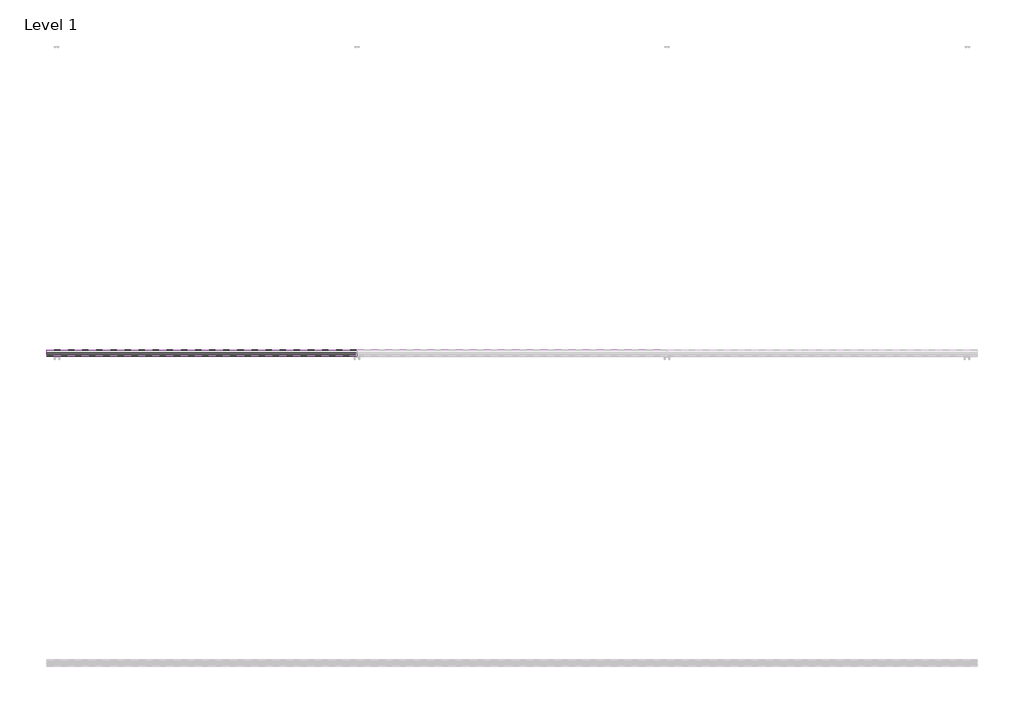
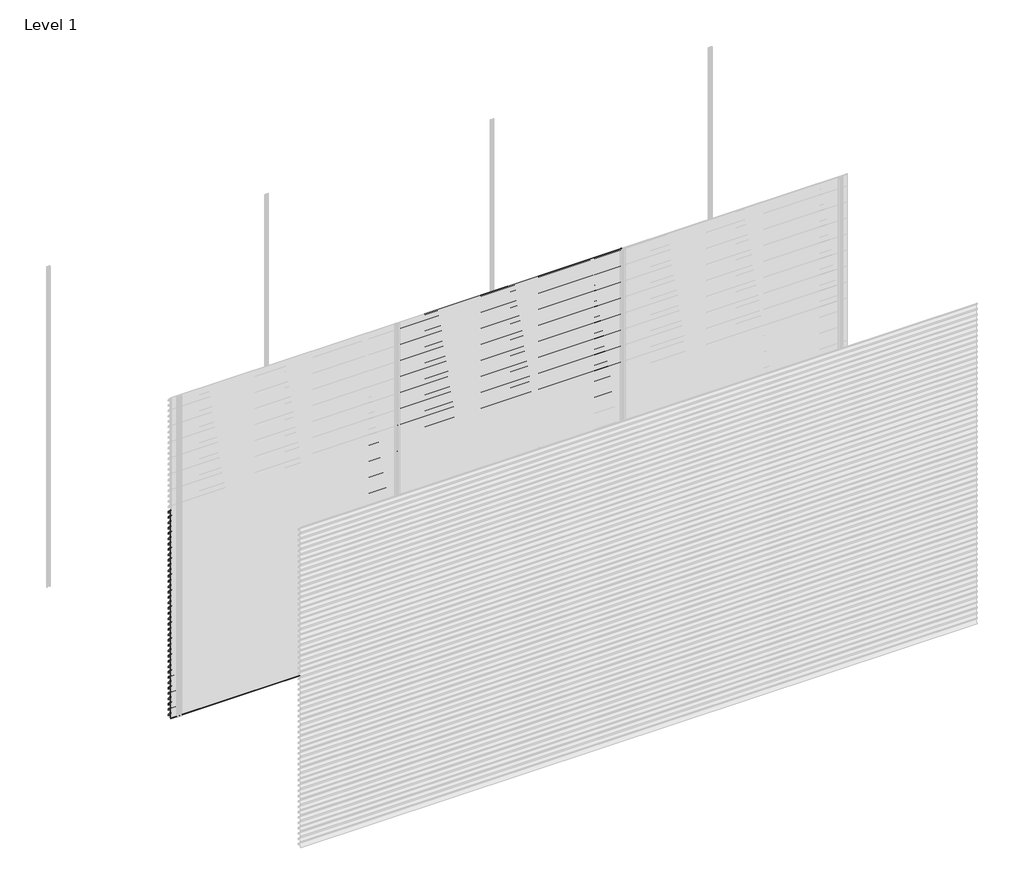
# One storey, part 33 of 38: 66 proxies.
"""IFC4 building model written with IfcOpenShell, lengths in millimetres."""

from ifc_helpers import new_model, si_unit, frame, origin, place, context, project, spatial, polyline, outline, extrude, element, save

model = new_model("IFC4")

# Units and contexts
model_context = context("Model", 3, world=origin())
ifc_project = project(units=[si_unit("LENGTHUNIT", "METRE", prefix="MILLI")], contexts=[model_context])

# Site, building, storey
site = spatial("IfcSite", under=ifc_project)
building = spatial("IfcBuilding", under=site)
storey = spatial("IfcBuildingStorey", under=building, Name="Level 1", Elevation=0.0)

# Proxies
placement = place(None, origin())
element("IfcBuildingElementProxy", 1, Name="Wall Sweeps", at=placement, inside=storey, context=model_context, shape_type="SweptSolid", body=[
    extrude(outline(polyline([(-5996.75, 1950.0), (-5996.75, 1939.19656), (-5974.6057113, 1926.4115489), (-5957.0, 1909.0472005), (-5957.0, 1894.0472005), (-5958.3, 1895.0268207), (-5958.3, 1908.5034593), (-5969.4914725, 1919.541504), (-5994.2797376, 1890.0), (-5995.9767671, 1890.0), (-5970.4200307, 1920.4573323), (-5975.3999793, 1925.3690091), (-5998.0, 1938.4171371), (-5998.0, 1950.0), (-5996.75, 1950.0)])), frame((0.0, 0.0, 0.0), z_axis=(1.0, 0.0, 0.0), x_axis=(0.0, 1.0, 0.0)), (0.0, 0.0, 1.0), 2000.0),
])
element("IfcBuildingElementProxy", 2, Name="Wall Sweeps", at=placement, inside=storey, context=model_context, shape_type="SweptSolid", body=[
    extrude(outline(polyline([(-5996.75, 1900.0), (-5996.75, 1889.19656), (-5974.6057113, 1876.4115489), (-5957.0, 1859.0472005), (-5957.0, 1844.0472005), (-5958.3, 1845.0268207), (-5958.3, 1858.5034593), (-5969.4914725, 1869.541504), (-5994.2797376, 1840.0), (-5995.9767671, 1840.0), (-5970.4200307, 1870.4573323), (-5975.3999793, 1875.3690091), (-5998.0, 1888.4171371), (-5998.0, 1900.0), (-5996.75, 1900.0)])), frame((0.0, 0.0, 0.0), z_axis=(1.0, 0.0, 0.0), x_axis=(0.0, 1.0, 0.0)), (0.0, 0.0, 1.0), 2000.0),
])
element("IfcBuildingElementProxy", 3, Name="Wall Sweeps", at=placement, inside=storey, context=model_context, shape_type="SweptSolid", body=[
    extrude(outline(polyline([(-5996.75, 1850.0), (-5996.75, 1839.19656), (-5974.6057113, 1826.4115489), (-5957.0, 1809.0472005), (-5957.0, 1794.0472005), (-5958.3, 1795.0268207), (-5958.3, 1808.5034593), (-5969.4914725, 1819.541504), (-5994.2797376, 1790.0), (-5995.9767671, 1790.0), (-5970.4200307, 1820.4573323), (-5975.3999793, 1825.3690091), (-5998.0, 1838.4171371), (-5998.0, 1850.0), (-5996.75, 1850.0)])), frame((0.0, 0.0, 0.0), z_axis=(1.0, 0.0, 0.0), x_axis=(0.0, 1.0, 0.0)), (0.0, 0.0, 1.0), 2000.0),
])
element("IfcBuildingElementProxy", 4, Name="Wall Sweeps", at=placement, inside=storey, context=model_context, shape_type="SweptSolid", body=[
    extrude(outline(polyline([(-5996.75, 1800.0), (-5996.75, 1789.19656), (-5974.6057113, 1776.4115489), (-5957.0, 1759.0472005), (-5957.0, 1744.0472005), (-5958.3, 1745.0268207), (-5958.3, 1758.5034593), (-5969.4914725, 1769.541504), (-5994.2797376, 1740.0), (-5995.9767671, 1740.0), (-5970.4200307, 1770.4573323), (-5975.3999793, 1775.3690091), (-5998.0, 1788.4171371), (-5998.0, 1800.0), (-5996.75, 1800.0)])), frame((0.0, 0.0, 0.0), z_axis=(1.0, 0.0, 0.0), x_axis=(0.0, 1.0, 0.0)), (0.0, 0.0, 1.0), 2000.0),
])
element("IfcBuildingElementProxy", 5, Name="Wall Sweeps", at=placement, inside=storey, context=model_context, shape_type="SweptSolid", body=[
    extrude(outline(polyline([(-5996.75, 1750.0), (-5996.75, 1739.19656), (-5974.6057113, 1726.4115489), (-5957.0, 1709.0472005), (-5957.0, 1694.0472005), (-5958.3, 1695.0268207), (-5958.3, 1708.5034593), (-5969.4914725, 1719.541504), (-5994.2797376, 1690.0), (-5995.9767671, 1690.0), (-5970.4200307, 1720.4573323), (-5975.3999793, 1725.3690091), (-5998.0, 1738.4171371), (-5998.0, 1750.0), (-5996.75, 1750.0)])), frame((0.0, 0.0, 0.0), z_axis=(1.0, 0.0, 0.0), x_axis=(0.0, 1.0, 0.0)), (0.0, 0.0, 1.0), 2000.0),
])
element("IfcBuildingElementProxy", 6, Name="Wall Sweeps", at=placement, inside=storey, context=model_context, shape_type="SweptSolid", body=[
    extrude(outline(polyline([(-5996.75, 1700.0), (-5996.75, 1689.19656), (-5974.6057113, 1676.4115489), (-5957.0, 1659.0472005), (-5957.0, 1644.0472005), (-5958.3, 1645.0268207), (-5958.3, 1658.5034593), (-5969.4914725, 1669.541504), (-5994.2797376, 1640.0), (-5995.9767671, 1640.0), (-5970.4200307, 1670.4573323), (-5975.3999793, 1675.3690091), (-5998.0, 1688.4171371), (-5998.0, 1700.0), (-5996.75, 1700.0)])), frame((0.0, 0.0, 0.0), z_axis=(1.0, 0.0, 0.0), x_axis=(0.0, 1.0, 0.0)), (0.0, 0.0, 1.0), 2000.0),
])
element("IfcBuildingElementProxy", 7, Name="Wall Sweeps", at=placement, inside=storey, context=model_context, shape_type="SweptSolid", body=[
    extrude(outline(polyline([(-5996.75, 1650.0), (-5996.75, 1639.19656), (-5974.6057113, 1626.4115489), (-5957.0, 1609.0472005), (-5957.0, 1594.0472005), (-5958.3, 1595.0268207), (-5958.3, 1608.5034593), (-5969.4914725, 1619.541504), (-5994.2797376, 1590.0), (-5995.9767671, 1590.0), (-5970.4200307, 1620.4573323), (-5975.3999793, 1625.3690091), (-5998.0, 1638.4171371), (-5998.0, 1650.0), (-5996.75, 1650.0)])), frame((0.0, 0.0, 0.0), z_axis=(1.0, 0.0, 0.0), x_axis=(0.0, 1.0, 0.0)), (0.0, 0.0, 1.0), 2000.0),
])
element("IfcBuildingElementProxy", 8, Name="Wall Sweeps", at=placement, inside=storey, context=model_context, shape_type="SweptSolid", body=[
    extrude(outline(polyline([(-5996.75, 1600.0), (-5996.75, 1589.19656), (-5974.6057113, 1576.4115489), (-5957.0, 1559.0472005), (-5957.0, 1544.0472005), (-5958.3, 1545.0268207), (-5958.3, 1558.5034593), (-5969.4914725, 1569.541504), (-5994.2797376, 1540.0), (-5995.9767671, 1540.0), (-5970.4200307, 1570.4573323), (-5975.3999793, 1575.3690091), (-5998.0, 1588.4171371), (-5998.0, 1600.0), (-5996.75, 1600.0)])), frame((0.0, 0.0, 0.0), z_axis=(1.0, 0.0, 0.0), x_axis=(0.0, 1.0, 0.0)), (0.0, 0.0, 1.0), 2000.0),
])
element("IfcBuildingElementProxy", 9, Name="Wall Sweeps", at=placement, inside=storey, context=model_context, shape_type="SweptSolid", body=[
    extrude(outline(polyline([(-5996.75, 1550.0), (-5996.75, 1539.19656), (-5974.6057113, 1526.4115489), (-5957.0, 1509.0472005), (-5957.0, 1494.0472005), (-5958.3, 1495.0268207), (-5958.3, 1508.5034593), (-5969.4914725, 1519.541504), (-5994.2797376, 1490.0), (-5995.9767671, 1490.0), (-5970.4200307, 1520.4573323), (-5975.3999793, 1525.3690091), (-5998.0, 1538.4171371), (-5998.0, 1550.0), (-5996.75, 1550.0)])), frame((0.0, 0.0, 0.0), z_axis=(1.0, 0.0, 0.0), x_axis=(0.0, 1.0, 0.0)), (0.0, 0.0, 1.0), 2000.0),
])
element("IfcBuildingElementProxy", 10, Name="Wall Sweeps", at=placement, inside=storey, context=model_context, shape_type="SweptSolid", body=[
    extrude(outline(polyline([(-5996.75, 1500.0), (-5996.75, 1489.19656), (-5974.6057113, 1476.4115489), (-5957.0, 1459.0472005), (-5957.0, 1444.0472005), (-5958.3, 1445.0268207), (-5958.3, 1458.5034593), (-5969.4914725, 1469.541504), (-5994.2797376, 1440.0), (-5995.9767671, 1440.0), (-5970.4200307, 1470.4573323), (-5975.3999793, 1475.3690091), (-5998.0, 1488.4171371), (-5998.0, 1500.0), (-5996.75, 1500.0)])), frame((0.0, 0.0, 0.0), z_axis=(1.0, 0.0, 0.0), x_axis=(0.0, 1.0, 0.0)), (0.0, 0.0, 1.0), 2000.0),
])
element("IfcBuildingElementProxy", 11, Name="Wall Sweeps", at=placement, inside=storey, context=model_context, shape_type="SweptSolid", body=[
    extrude(outline(polyline([(-5996.75, 1450.0), (-5996.75, 1439.19656), (-5974.6057113, 1426.4115489), (-5957.0, 1409.0472005), (-5957.0, 1394.0472005), (-5958.3, 1395.0268207), (-5958.3, 1408.5034593), (-5969.4914725, 1419.541504), (-5994.2797376, 1390.0), (-5995.9767671, 1390.0), (-5970.4200307, 1420.4573323), (-5975.3999793, 1425.3690091), (-5998.0, 1438.4171371), (-5998.0, 1450.0), (-5996.75, 1450.0)])), frame((0.0, 0.0, 0.0), z_axis=(1.0, 0.0, 0.0), x_axis=(0.0, 1.0, 0.0)), (0.0, 0.0, 1.0), 2000.0),
])
element("IfcBuildingElementProxy", 12, Name="Wall Sweeps", at=placement, inside=storey, context=model_context, shape_type="SweptSolid", body=[
    extrude(outline(polyline([(-5996.75, 1400.0), (-5996.75, 1389.19656), (-5974.6057113, 1376.4115489), (-5957.0, 1359.0472005), (-5957.0, 1344.0472005), (-5958.3, 1345.0268207), (-5958.3, 1358.5034593), (-5969.4914725, 1369.541504), (-5994.2797376, 1340.0), (-5995.9767671, 1340.0), (-5970.4200307, 1370.4573323), (-5975.3999793, 1375.3690091), (-5998.0, 1388.4171371), (-5998.0, 1400.0), (-5996.75, 1400.0)])), frame((0.0, 0.0, 0.0), z_axis=(1.0, 0.0, 0.0), x_axis=(0.0, 1.0, 0.0)), (0.0, 0.0, 1.0), 2000.0),
])
element("IfcBuildingElementProxy", 13, Name="Wall Sweeps", at=placement, inside=storey, context=model_context, shape_type="SweptSolid", body=[
    extrude(outline(polyline([(-5996.75, 1350.0), (-5996.75, 1339.19656), (-5974.6057113, 1326.4115489), (-5957.0, 1309.0472005), (-5957.0, 1294.0472005), (-5958.3, 1295.0268207), (-5958.3, 1308.5034593), (-5969.4914725, 1319.541504), (-5994.2797376, 1290.0), (-5995.9767671, 1290.0), (-5970.4200307, 1320.4573323), (-5975.3999793, 1325.3690091), (-5998.0, 1338.4171371), (-5998.0, 1350.0), (-5996.75, 1350.0)])), frame((0.0, 0.0, 0.0), z_axis=(1.0, 0.0, 0.0), x_axis=(0.0, 1.0, 0.0)), (0.0, 0.0, 1.0), 2000.0),
])
element("IfcBuildingElementProxy", 14, Name="Wall Sweeps", at=placement, inside=storey, context=model_context, shape_type="SweptSolid", body=[
    extrude(outline(polyline([(-5996.75, 1300.0), (-5996.75, 1289.19656), (-5974.6057113, 1276.4115489), (-5957.0, 1259.0472005), (-5957.0, 1244.0472005), (-5958.3, 1245.0268207), (-5958.3, 1258.5034593), (-5969.4914725, 1269.541504), (-5994.2797376, 1240.0), (-5995.9767671, 1240.0), (-5970.4200307, 1270.4573323), (-5975.3999793, 1275.3690091), (-5998.0, 1288.4171371), (-5998.0, 1300.0), (-5996.75, 1300.0)])), frame((0.0, 0.0, 0.0), z_axis=(1.0, 0.0, 0.0), x_axis=(0.0, 1.0, 0.0)), (0.0, 0.0, 1.0), 2000.0),
])
element("IfcBuildingElementProxy", 15, Name="Wall Sweeps", at=placement, inside=storey, context=model_context, shape_type="SweptSolid", body=[
    extrude(outline(polyline([(-5996.75, 1250.0), (-5996.75, 1239.19656), (-5974.6057113, 1226.4115489), (-5957.0, 1209.0472005), (-5957.0, 1194.0472005), (-5958.3, 1195.0268207), (-5958.3, 1208.5034593), (-5969.4914725, 1219.541504), (-5994.2797376, 1190.0), (-5995.9767671, 1190.0), (-5970.4200307, 1220.4573323), (-5975.3999793, 1225.3690091), (-5998.0, 1238.4171371), (-5998.0, 1250.0), (-5996.75, 1250.0)])), frame((0.0, 0.0, 0.0), z_axis=(1.0, 0.0, 0.0), x_axis=(0.0, 1.0, 0.0)), (0.0, 0.0, 1.0), 2000.0),
])
element("IfcBuildingElementProxy", 16, Name="Wall Sweeps", at=placement, inside=storey, context=model_context, shape_type="SweptSolid", body=[
    extrude(outline(polyline([(-5996.75, 1200.0), (-5996.75, 1189.19656), (-5974.6057113, 1176.4115489), (-5957.0, 1159.0472005), (-5957.0, 1144.0472005), (-5958.3, 1145.0268207), (-5958.3, 1158.5034593), (-5969.4914725, 1169.541504), (-5994.2797376, 1140.0), (-5995.9767671, 1140.0), (-5970.4200307, 1170.4573323), (-5975.3999793, 1175.3690091), (-5998.0, 1188.4171371), (-5998.0, 1200.0), (-5996.75, 1200.0)])), frame((0.0, 0.0, 0.0), z_axis=(1.0, 0.0, 0.0), x_axis=(0.0, 1.0, 0.0)), (0.0, 0.0, 1.0), 2000.0),
])
element("IfcBuildingElementProxy", 17, Name="Wall Sweeps", at=placement, inside=storey, context=model_context, shape_type="SweptSolid", body=[
    extrude(outline(polyline([(-5996.75, 1150.0), (-5996.75, 1139.19656), (-5974.6057113, 1126.4115489), (-5957.0, 1109.0472005), (-5957.0, 1094.0472005), (-5958.3, 1095.0268207), (-5958.3, 1108.5034593), (-5969.4914725, 1119.541504), (-5994.2797376, 1090.0), (-5995.9767671, 1090.0), (-5970.4200307, 1120.4573323), (-5975.3999793, 1125.3690091), (-5998.0, 1138.4171371), (-5998.0, 1150.0), (-5996.75, 1150.0)])), frame((0.0, 0.0, 0.0), z_axis=(1.0, 0.0, 0.0), x_axis=(0.0, 1.0, 0.0)), (0.0, 0.0, 1.0), 2000.0),
])
element("IfcBuildingElementProxy", 18, Name="Wall Sweeps", at=placement, inside=storey, context=model_context, shape_type="SweptSolid", body=[
    extrude(outline(polyline([(-5996.75, 1100.0), (-5996.75, 1089.19656), (-5974.6057113, 1076.4115489), (-5957.0, 1059.0472005), (-5957.0, 1044.0472005), (-5958.3, 1045.0268207), (-5958.3, 1058.5034593), (-5969.4914725, 1069.541504), (-5994.2797376, 1040.0), (-5995.9767671, 1040.0), (-5970.4200307, 1070.4573323), (-5975.3999793, 1075.3690091), (-5998.0, 1088.4171371), (-5998.0, 1100.0), (-5996.75, 1100.0)])), frame((0.0, 0.0, 0.0), z_axis=(1.0, 0.0, 0.0), x_axis=(0.0, 1.0, 0.0)), (0.0, 0.0, 1.0), 2000.0),
])
element("IfcBuildingElementProxy", 19, Name="Wall Sweeps", at=placement, inside=storey, context=model_context, shape_type="SweptSolid", body=[
    extrude(outline(polyline([(-5996.75, 1050.0), (-5996.75, 1039.19656), (-5974.6057113, 1026.4115489), (-5957.0, 1009.0472005), (-5957.0, 994.0472005), (-5958.3, 995.0268207), (-5958.3, 1008.5034593), (-5969.4914725, 1019.541504), (-5994.2797376, 990.0), (-5995.9767671, 990.0), (-5970.4200307, 1020.4573323), (-5975.3999793, 1025.3690091), (-5998.0, 1038.4171371), (-5998.0, 1050.0), (-5996.75, 1050.0)])), frame((0.0, 0.0, 0.0), z_axis=(1.0, 0.0, 0.0), x_axis=(0.0, 1.0, 0.0)), (0.0, 0.0, 1.0), 2000.0),
])
element("IfcBuildingElementProxy", 20, Name="Wall Sweeps", at=placement, inside=storey, context=model_context, shape_type="SweptSolid", body=[
    extrude(outline(polyline([(-5996.75, 1000.0), (-5996.75, 989.19656), (-5974.6057113, 976.4115489), (-5957.0, 959.0472005), (-5957.0, 944.0472005), (-5958.3, 945.0268207), (-5958.3, 958.5034593), (-5969.4914725, 969.541504), (-5994.2797376, 940.0), (-5995.9767671, 940.0), (-5970.4200307, 970.4573323), (-5975.3999793, 975.3690091), (-5998.0, 988.4171371), (-5998.0, 1000.0), (-5996.75, 1000.0)])), frame((0.0, 0.0, 0.0), z_axis=(1.0, 0.0, 0.0), x_axis=(0.0, 1.0, 0.0)), (0.0, 0.0, 1.0), 2000.0),
])
element("IfcBuildingElementProxy", 21, Name="Wall Sweeps", at=placement, inside=storey, context=model_context, shape_type="SweptSolid", body=[
    extrude(outline(polyline([(-5996.75, 950.0), (-5996.75, 939.19656), (-5974.6057113, 926.4115489), (-5957.0, 909.0472005), (-5957.0, 894.0472005), (-5958.3, 895.0268207), (-5958.3, 908.5034593), (-5969.4914725, 919.541504), (-5994.2797376, 890.0), (-5995.9767671, 890.0), (-5970.4200307, 920.4573323), (-5975.3999793, 925.3690091), (-5998.0, 938.4171371), (-5998.0, 950.0), (-5996.75, 950.0)])), frame((0.0, 0.0, 0.0), z_axis=(1.0, 0.0, 0.0), x_axis=(0.0, 1.0, 0.0)), (0.0, 0.0, 1.0), 2000.0),
])
element("IfcBuildingElementProxy", 22, Name="Wall Sweeps", at=placement, inside=storey, context=model_context, shape_type="SweptSolid", body=[
    extrude(outline(polyline([(-5996.75, 900.0), (-5996.75, 889.19656), (-5974.6057113, 876.4115489), (-5957.0, 859.0472005), (-5957.0, 844.0472005), (-5958.3, 845.0268207), (-5958.3, 858.5034593), (-5969.4914725, 869.541504), (-5994.2797376, 840.0), (-5995.9767671, 840.0), (-5970.4200307, 870.4573323), (-5975.3999793, 875.3690091), (-5998.0, 888.4171371), (-5998.0, 900.0), (-5996.75, 900.0)])), frame((0.0, 0.0, 0.0), z_axis=(1.0, 0.0, 0.0), x_axis=(0.0, 1.0, 0.0)), (0.0, 0.0, 1.0), 2000.0),
])
element("IfcBuildingElementProxy", 23, Name="Wall Sweeps", at=placement, inside=storey, context=model_context, shape_type="SweptSolid", body=[
    extrude(outline(polyline([(-5996.75, 850.0), (-5996.75, 839.19656), (-5974.6057113, 826.4115489), (-5957.0, 809.0472005), (-5957.0, 794.0472005), (-5958.3, 795.0268207), (-5958.3, 808.5034593), (-5969.4914725, 819.541504), (-5994.2797376, 790.0), (-5995.9767671, 790.0), (-5970.4200307, 820.4573323), (-5975.3999793, 825.3690091), (-5998.0, 838.4171371), (-5998.0, 850.0), (-5996.75, 850.0)])), frame((0.0, 0.0, 0.0), z_axis=(1.0, 0.0, 0.0), x_axis=(0.0, 1.0, 0.0)), (0.0, 0.0, 1.0), 2000.0),
])
element("IfcBuildingElementProxy", 24, Name="Wall Sweeps", at=placement, inside=storey, context=model_context, shape_type="SweptSolid", body=[
    extrude(outline(polyline([(-5996.75, 800.0), (-5996.75, 789.19656), (-5974.6057113, 776.4115489), (-5957.0, 759.0472005), (-5957.0, 744.0472005), (-5958.3, 745.0268207), (-5958.3, 758.5034593), (-5969.4914725, 769.541504), (-5994.2797376, 740.0), (-5995.9767671, 740.0), (-5970.4200307, 770.4573323), (-5975.3999793, 775.3690091), (-5998.0, 788.4171371), (-5998.0, 800.0), (-5996.75, 800.0)])), frame((0.0, 0.0, 0.0), z_axis=(1.0, 0.0, 0.0), x_axis=(0.0, 1.0, 0.0)), (0.0, 0.0, 1.0), 2000.0),
])
element("IfcBuildingElementProxy", 25, Name="Wall Sweeps", at=placement, inside=storey, context=model_context, shape_type="SweptSolid", body=[
    extrude(outline(polyline([(-5996.75, 750.0), (-5996.75, 739.19656), (-5974.6057113, 726.4115489), (-5957.0, 709.0472005), (-5957.0, 694.0472005), (-5958.3, 695.0268207), (-5958.3, 708.5034593), (-5969.4914725, 719.541504), (-5994.2797376, 690.0), (-5995.9767671, 690.0), (-5970.4200307, 720.4573323), (-5975.3999793, 725.3690091), (-5998.0, 738.4171371), (-5998.0, 750.0), (-5996.75, 750.0)])), frame((0.0, 0.0, 0.0), z_axis=(1.0, 0.0, 0.0), x_axis=(0.0, 1.0, 0.0)), (0.0, 0.0, 1.0), 2000.0),
])
element("IfcBuildingElementProxy", 26, Name="Wall Sweeps", at=placement, inside=storey, context=model_context, shape_type="SweptSolid", body=[
    extrude(outline(polyline([(-5996.75, 700.0), (-5996.75, 689.19656), (-5974.6057113, 676.4115489), (-5957.0, 659.0472005), (-5957.0, 644.0472005), (-5958.3, 645.0268207), (-5958.3, 658.5034593), (-5969.4914725, 669.541504), (-5994.2797376, 640.0), (-5995.9767671, 640.0), (-5970.4200307, 670.4573323), (-5975.3999793, 675.3690091), (-5998.0, 688.4171371), (-5998.0, 700.0), (-5996.75, 700.0)])), frame((0.0, 0.0, 0.0), z_axis=(1.0, 0.0, 0.0), x_axis=(0.0, 1.0, 0.0)), (0.0, 0.0, 1.0), 2000.0),
])
element("IfcBuildingElementProxy", 27, Name="Wall Sweeps", at=placement, inside=storey, context=model_context, shape_type="SweptSolid", body=[
    extrude(outline(polyline([(-5996.75, 650.0), (-5996.75, 639.19656), (-5974.6057113, 626.4115489), (-5957.0, 609.0472005), (-5957.0, 594.0472005), (-5958.3, 595.0268207), (-5958.3, 608.5034593), (-5969.4914725, 619.541504), (-5994.2797376, 590.0), (-5995.9767671, 590.0), (-5970.4200307, 620.4573323), (-5975.3999793, 625.3690091), (-5998.0, 638.4171371), (-5998.0, 650.0), (-5996.75, 650.0)])), frame((0.0, 0.0, 0.0), z_axis=(1.0, 0.0, 0.0), x_axis=(0.0, 1.0, 0.0)), (0.0, 0.0, 1.0), 2000.0),
])
element("IfcBuildingElementProxy", 28, Name="Wall Sweeps", at=placement, inside=storey, context=model_context, shape_type="SweptSolid", body=[
    extrude(outline(polyline([(-5996.75, 600.0), (-5996.75, 589.19656), (-5974.6057113, 576.4115489), (-5957.0, 559.0472005), (-5957.0, 544.0472005), (-5958.3, 545.0268207), (-5958.3, 558.5034593), (-5969.4914725, 569.541504), (-5994.2797376, 540.0), (-5995.9767671, 540.0), (-5970.4200307, 570.4573323), (-5975.3999793, 575.3690091), (-5998.0, 588.4171371), (-5998.0, 600.0), (-5996.75, 600.0)])), frame((0.0, 0.0, 0.0), z_axis=(1.0, 0.0, 0.0), x_axis=(0.0, 1.0, 0.0)), (0.0, 0.0, 1.0), 2000.0),
])
element("IfcBuildingElementProxy", 29, Name="Wall Sweeps", at=placement, inside=storey, context=model_context, shape_type="SweptSolid", body=[
    extrude(outline(polyline([(-5996.75, 550.0), (-5996.75, 539.19656), (-5974.6057113, 526.4115489), (-5957.0, 509.0472005), (-5957.0, 494.0472005), (-5958.3, 495.0268207), (-5958.3, 508.5034593), (-5969.4914725, 519.541504), (-5994.2797376, 490.0), (-5995.9767671, 490.0), (-5970.4200307, 520.4573323), (-5975.3999793, 525.3690091), (-5998.0, 538.4171371), (-5998.0, 550.0), (-5996.75, 550.0)])), frame((0.0, 0.0, 0.0), z_axis=(1.0, 0.0, 0.0), x_axis=(0.0, 1.0, 0.0)), (0.0, 0.0, 1.0), 2000.0),
])
element("IfcBuildingElementProxy", 30, Name="Wall Sweeps", at=placement, inside=storey, context=model_context, shape_type="SweptSolid", body=[
    extrude(outline(polyline([(-5996.75, 500.0), (-5996.75, 489.19656), (-5974.6057113, 476.4115489), (-5957.0, 459.0472005), (-5957.0, 444.0472005), (-5958.3, 445.0268207), (-5958.3, 458.5034593), (-5969.4914725, 469.541504), (-5994.2797376, 440.0), (-5995.9767671, 440.0), (-5970.4200307, 470.4573323), (-5975.3999793, 475.3690091), (-5998.0, 488.4171371), (-5998.0, 500.0), (-5996.75, 500.0)])), frame((0.0, 0.0, 0.0), z_axis=(1.0, 0.0, 0.0), x_axis=(0.0, 1.0, 0.0)), (0.0, 0.0, 1.0), 2000.0),
])
element("IfcBuildingElementProxy", 31, Name="Wall Sweeps", at=placement, inside=storey, context=model_context, shape_type="SweptSolid", body=[
    extrude(outline(polyline([(-5996.75, 450.0), (-5996.75, 439.19656), (-5974.6057113, 426.4115489), (-5957.0, 409.0472005), (-5957.0, 394.0472005), (-5958.3, 395.0268207), (-5958.3, 408.5034593), (-5969.4914725, 419.541504), (-5994.2797376, 390.0), (-5995.9767671, 390.0), (-5970.4200307, 420.4573323), (-5975.3999793, 425.3690091), (-5998.0, 438.4171371), (-5998.0, 450.0), (-5996.75, 450.0)])), frame((0.0, 0.0, 0.0), z_axis=(1.0, 0.0, 0.0), x_axis=(0.0, 1.0, 0.0)), (0.0, 0.0, 1.0), 2000.0),
])
element("IfcBuildingElementProxy", 32, Name="Wall Sweeps", at=placement, inside=storey, context=model_context, shape_type="SweptSolid", body=[
    extrude(outline(polyline([(-5996.75, 400.0), (-5996.75, 389.19656), (-5974.6057113, 376.4115489), (-5957.0, 359.0472005), (-5957.0, 344.0472005), (-5958.3, 345.0268207), (-5958.3, 358.5034593), (-5969.4914725, 369.541504), (-5994.2797376, 340.0), (-5995.9767671, 340.0), (-5970.4200307, 370.4573323), (-5975.3999793, 375.3690091), (-5998.0, 388.4171371), (-5998.0, 400.0), (-5996.75, 400.0)])), frame((0.0, 0.0, 0.0), z_axis=(1.0, 0.0, 0.0), x_axis=(0.0, 1.0, 0.0)), (0.0, 0.0, 1.0), 2000.0),
])
element("IfcBuildingElementProxy", 33, Name="Wall Sweeps", at=placement, inside=storey, context=model_context, shape_type="SweptSolid", body=[
    extrude(outline(polyline([(-5996.75, 350.0), (-5996.75, 339.19656), (-5974.6057113, 326.4115489), (-5957.0, 309.0472005), (-5957.0, 294.0472005), (-5958.3, 295.0268207), (-5958.3, 308.5034593), (-5969.4914725, 319.541504), (-5994.2797376, 290.0), (-5995.9767671, 290.0), (-5970.4200307, 320.4573323), (-5975.3999793, 325.3690091), (-5998.0, 338.4171371), (-5998.0, 350.0), (-5996.75, 350.0)])), frame((0.0, 0.0, 0.0), z_axis=(1.0, 0.0, 0.0), x_axis=(0.0, 1.0, 0.0)), (0.0, 0.0, 1.0), 2000.0),
])
element("IfcBuildingElementProxy", 34, Name="Wall Sweeps", at=placement, inside=storey, context=model_context, shape_type="SweptSolid", body=[
    extrude(outline(polyline([(-5996.75, 300.0), (-5996.75, 289.19656), (-5974.6057113, 276.4115489), (-5957.0, 259.0472005), (-5957.0, 244.0472005), (-5958.3, 245.0268207), (-5958.3, 258.5034593), (-5969.4914725, 269.541504), (-5994.2797376, 240.0), (-5995.9767671, 240.0), (-5970.4200307, 270.4573323), (-5975.3999793, 275.3690091), (-5998.0, 288.4171371), (-5998.0, 300.0), (-5996.75, 300.0)])), frame((0.0, 0.0, 0.0), z_axis=(1.0, 0.0, 0.0), x_axis=(0.0, 1.0, 0.0)), (0.0, 0.0, 1.0), 2000.0),
])
element("IfcBuildingElementProxy", 35, Name="Wall Sweeps", at=placement, inside=storey, context=model_context, shape_type="SweptSolid", body=[
    extrude(outline(polyline([(-5996.75, 250.0), (-5996.75, 239.19656), (-5974.6057113, 226.4115489), (-5957.0, 209.0472005), (-5957.0, 194.0472005), (-5958.3, 195.0268207), (-5958.3, 208.5034593), (-5969.4914725, 219.541504), (-5994.2797376, 190.0), (-5995.9767671, 190.0), (-5970.4200307, 220.4573323), (-5975.3999793, 225.3690091), (-5998.0, 238.4171371), (-5998.0, 250.0), (-5996.75, 250.0)])), frame((0.0, 0.0, 0.0), z_axis=(1.0, 0.0, 0.0), x_axis=(0.0, 1.0, 0.0)), (0.0, 0.0, 1.0), 2000.0),
])
element("IfcBuildingElementProxy", 36, Name="Wall Sweeps", at=placement, inside=storey, context=model_context, shape_type="SweptSolid", body=[
    extrude(outline(polyline([(-5996.75, 200.0), (-5996.75, 189.19656), (-5974.6057113, 176.4115489), (-5957.0, 159.0472005), (-5957.0, 144.0472005), (-5958.3, 145.0268207), (-5958.3, 158.5034593), (-5969.4914725, 169.541504), (-5994.2797376, 140.0), (-5995.9767671, 140.0), (-5970.4200307, 170.4573323), (-5975.3999793, 175.3690091), (-5998.0, 188.4171371), (-5998.0, 200.0), (-5996.75, 200.0)])), frame((0.0, 0.0, 0.0), z_axis=(1.0, 0.0, 0.0), x_axis=(0.0, 1.0, 0.0)), (0.0, 0.0, 1.0), 2000.0),
])
element("IfcBuildingElementProxy", 37, Name="Wall Sweeps", at=placement, inside=storey, context=model_context, shape_type="SweptSolid", body=[
    extrude(outline(polyline([(-5996.75, 150.0), (-5996.75, 139.19656), (-5974.6057113, 126.4115489), (-5957.0, 109.0472005), (-5957.0, 94.0472005), (-5958.3, 95.0268207), (-5958.3, 108.5034593), (-5969.4914725, 119.541504), (-5994.2797376, 90.0), (-5995.9767671, 90.0), (-5970.4200307, 120.4573323), (-5975.3999793, 125.3690091), (-5998.0, 138.4171371), (-5998.0, 150.0), (-5996.75, 150.0)])), frame((0.0, 0.0, 0.0), z_axis=(1.0, 0.0, 0.0), x_axis=(0.0, 1.0, 0.0)), (0.0, 0.0, 1.0), 2000.0),
])
element("IfcBuildingElementProxy", 38, Name="Wall Sweeps", at=placement, inside=storey, context=model_context, shape_type="SweptSolid", body=[
    extrude(outline(polyline([(-5996.75, 100.0), (-5996.75, 89.19656), (-5974.6057113, 76.4115489), (-5957.0, 59.0472005), (-5957.0, 44.0472005), (-5958.3, 45.0268207), (-5958.3, 58.5034593), (-5969.4914725, 69.541504), (-5994.2797376, 40.0), (-5995.9767671, 40.0), (-5970.4200307, 70.4573323), (-5975.3999793, 75.3690091), (-5998.0, 88.4171371), (-5998.0, 100.0), (-5996.75, 100.0)])), frame((0.0, 0.0, 0.0), z_axis=(1.0, 0.0, 0.0), x_axis=(0.0, 1.0, 0.0)), (0.0, 0.0, 1.0), 2000.0),
])
element("IfcBuildingElementProxy", 39, Name="Wall Sweeps", at=placement, inside=storey, context=model_context, shape_type="SweptSolid", body=[
    extrude(outline(polyline([(-5996.75, 50.0), (-5996.75, 39.19656), (-5974.6057113, 26.4115489), (-5957.0, 9.0472005), (-5957.0, -5.9527995), (-5958.3, -4.9731793), (-5958.3, 8.5034593), (-5969.4914725, 19.541504), (-5994.2797376, -10.0), (-5995.9767671, -10.0), (-5970.4200307, 20.4573323), (-5975.3999793, 25.3690091), (-5998.0, 38.4171371), (-5998.0, 50.0), (-5996.75, 50.0)])), frame((0.0, 0.0, 0.0), z_axis=(1.0, 0.0, 0.0), x_axis=(0.0, 1.0, 0.0)), (0.0, 0.0, 1.0), 2000.0),
])
element("IfcBuildingElementProxy", 40, Name="Wall Sweeps", at=placement, inside=storey, context=model_context, shape_type="SweptSolid", body=[
    extrude(outline(polyline([(-5996.75, 3000.0), (-5996.75, 2989.19656), (-5974.6057113, 2976.4115489), (-5957.0, 2959.0472005), (-5957.0, 2944.0472005), (-5958.3, 2945.0268207), (-5958.3, 2958.5034593), (-5969.4914725, 2969.541504), (-5994.2797376, 2940.0), (-5995.9767671, 2940.0), (-5970.4200307, 2970.4573323), (-5975.3999793, 2975.3690091), (-5998.0, 2988.4171371), (-5998.0, 3000.0), (-5996.75, 3000.0)])), frame((2000.0, 0.0, 0.0), z_axis=(1.0, 0.0, 0.0), x_axis=(0.0, 1.0, 0.0)), (0.0, 0.0, 1.0), 2000.0),
])
element("IfcBuildingElementProxy", 41, Name="Wall Sweeps", at=placement, inside=storey, context=model_context, shape_type="SweptSolid", body=[
    extrude(outline(polyline([(-5996.75, 2950.0), (-5996.75, 2939.19656), (-5974.6057113, 2926.4115489), (-5957.0, 2909.0472005), (-5957.0, 2894.0472005), (-5958.3, 2895.0268207), (-5958.3, 2908.5034593), (-5969.4914725, 2919.541504), (-5994.2797376, 2890.0), (-5995.9767671, 2890.0), (-5970.4200307, 2920.4573323), (-5975.3999793, 2925.3690091), (-5998.0, 2938.4171371), (-5998.0, 2950.0), (-5996.75, 2950.0)])), frame((2000.0, 0.0, 0.0), z_axis=(1.0, 0.0, 0.0), x_axis=(0.0, 1.0, 0.0)), (0.0, 0.0, 1.0), 2000.0),
])
element("IfcBuildingElementProxy", 42, Name="Wall Sweeps", at=placement, inside=storey, context=model_context, shape_type="SweptSolid", body=[
    extrude(outline(polyline([(-5996.75, 2900.0), (-5996.75, 2889.19656), (-5974.6057113, 2876.4115489), (-5957.0, 2859.0472005), (-5957.0, 2844.0472005), (-5958.3, 2845.0268207), (-5958.3, 2858.5034593), (-5969.4914725, 2869.541504), (-5994.2797376, 2840.0), (-5995.9767671, 2840.0), (-5970.4200307, 2870.4573323), (-5975.3999793, 2875.3690091), (-5998.0, 2888.4171371), (-5998.0, 2900.0), (-5996.75, 2900.0)])), frame((2000.0, 0.0, 0.0), z_axis=(1.0, 0.0, 0.0), x_axis=(0.0, 1.0, 0.0)), (0.0, 0.0, 1.0), 2000.0),
])
element("IfcBuildingElementProxy", 43, Name="Wall Sweeps", at=placement, inside=storey, context=model_context, shape_type="SweptSolid", body=[
    extrude(outline(polyline([(-5996.75, 2850.0), (-5996.75, 2839.19656), (-5974.6057113, 2826.4115489), (-5957.0, 2809.0472005), (-5957.0, 2794.0472005), (-5958.3, 2795.0268207), (-5958.3, 2808.5034593), (-5969.4914725, 2819.541504), (-5994.2797376, 2790.0), (-5995.9767671, 2790.0), (-5970.4200307, 2820.4573323), (-5975.3999793, 2825.3690091), (-5998.0, 2838.4171371), (-5998.0, 2850.0), (-5996.75, 2850.0)])), frame((2000.0, 0.0, 0.0), z_axis=(1.0, 0.0, 0.0), x_axis=(0.0, 1.0, 0.0)), (0.0, 0.0, 1.0), 2000.0),
])
element("IfcBuildingElementProxy", 44, Name="Wall Sweeps", at=placement, inside=storey, context=model_context, shape_type="SweptSolid", body=[
    extrude(outline(polyline([(-5996.75, 2800.0), (-5996.75, 2789.19656), (-5974.6057113, 2776.4115489), (-5957.0, 2759.0472005), (-5957.0, 2744.0472005), (-5958.3, 2745.0268207), (-5958.3, 2758.5034593), (-5969.4914725, 2769.541504), (-5994.2797376, 2740.0), (-5995.9767671, 2740.0), (-5970.4200307, 2770.4573323), (-5975.3999793, 2775.3690091), (-5998.0, 2788.4171371), (-5998.0, 2800.0), (-5996.75, 2800.0)])), frame((2000.0, 0.0, 0.0), z_axis=(1.0, 0.0, 0.0), x_axis=(0.0, 1.0, 0.0)), (0.0, 0.0, 1.0), 2000.0),
])
element("IfcBuildingElementProxy", 45, Name="Wall Sweeps", at=placement, inside=storey, context=model_context, shape_type="SweptSolid", body=[
    extrude(outline(polyline([(-5996.75, 2750.0), (-5996.75, 2739.19656), (-5974.6057113, 2726.4115489), (-5957.0, 2709.0472005), (-5957.0, 2694.0472005), (-5958.3, 2695.0268207), (-5958.3, 2708.5034593), (-5969.4914725, 2719.541504), (-5994.2797376, 2690.0), (-5995.9767671, 2690.0), (-5970.4200307, 2720.4573323), (-5975.3999793, 2725.3690091), (-5998.0, 2738.4171371), (-5998.0, 2750.0), (-5996.75, 2750.0)])), frame((2000.0, 0.0, 0.0), z_axis=(1.0, 0.0, 0.0), x_axis=(0.0, 1.0, 0.0)), (0.0, 0.0, 1.0), 2000.0),
])
element("IfcBuildingElementProxy", 46, Name="Wall Sweeps", at=placement, inside=storey, context=model_context, shape_type="SweptSolid", body=[
    extrude(outline(polyline([(-5996.75, 2700.0), (-5996.75, 2689.19656), (-5974.6057113, 2676.4115489), (-5957.0, 2659.0472005), (-5957.0, 2644.0472005), (-5958.3, 2645.0268207), (-5958.3, 2658.5034593), (-5969.4914725, 2669.541504), (-5994.2797376, 2640.0), (-5995.9767671, 2640.0), (-5970.4200307, 2670.4573323), (-5975.3999793, 2675.3690091), (-5998.0, 2688.4171371), (-5998.0, 2700.0), (-5996.75, 2700.0)])), frame((2000.0, 0.0, 0.0), z_axis=(1.0, 0.0, 0.0), x_axis=(0.0, 1.0, 0.0)), (0.0, 0.0, 1.0), 2000.0),
])
element("IfcBuildingElementProxy", 47, Name="Wall Sweeps", at=placement, inside=storey, context=model_context, shape_type="SweptSolid", body=[
    extrude(outline(polyline([(-5996.75, 2650.0), (-5996.75, 2639.19656), (-5974.6057113, 2626.4115489), (-5957.0, 2609.0472005), (-5957.0, 2594.0472005), (-5958.3, 2595.0268207), (-5958.3, 2608.5034593), (-5969.4914725, 2619.541504), (-5994.2797376, 2590.0), (-5995.9767671, 2590.0), (-5970.4200307, 2620.4573323), (-5975.3999793, 2625.3690091), (-5998.0, 2638.4171371), (-5998.0, 2650.0), (-5996.75, 2650.0)])), frame((2000.0, 0.0, 0.0), z_axis=(1.0, 0.0, 0.0), x_axis=(0.0, 1.0, 0.0)), (0.0, 0.0, 1.0), 2000.0),
])
element("IfcBuildingElementProxy", 48, Name="Wall Sweeps", at=placement, inside=storey, context=model_context, shape_type="SweptSolid", body=[
    extrude(outline(polyline([(-5996.75, 2600.0), (-5996.75, 2589.19656), (-5974.6057113, 2576.4115489), (-5957.0, 2559.0472005), (-5957.0, 2544.0472005), (-5958.3, 2545.0268207), (-5958.3, 2558.5034593), (-5969.4914725, 2569.541504), (-5994.2797376, 2540.0), (-5995.9767671, 2540.0), (-5970.4200307, 2570.4573323), (-5975.3999793, 2575.3690091), (-5998.0, 2588.4171371), (-5998.0, 2600.0), (-5996.75, 2600.0)])), frame((2000.0, 0.0, 0.0), z_axis=(1.0, 0.0, 0.0), x_axis=(0.0, 1.0, 0.0)), (0.0, 0.0, 1.0), 2000.0),
])
element("IfcBuildingElementProxy", 49, Name="Wall Sweeps", at=placement, inside=storey, context=model_context, shape_type="SweptSolid", body=[
    extrude(outline(polyline([(-5996.75, 2550.0), (-5996.75, 2539.19656), (-5974.6057113, 2526.4115489), (-5957.0, 2509.0472005), (-5957.0, 2494.0472005), (-5958.3, 2495.0268207), (-5958.3, 2508.5034593), (-5969.4914725, 2519.541504), (-5994.2797376, 2490.0), (-5995.9767671, 2490.0), (-5970.4200307, 2520.4573323), (-5975.3999793, 2525.3690091), (-5998.0, 2538.4171371), (-5998.0, 2550.0), (-5996.75, 2550.0)])), frame((2000.0, 0.0, 0.0), z_axis=(1.0, 0.0, 0.0), x_axis=(0.0, 1.0, 0.0)), (0.0, 0.0, 1.0), 2000.0),
])
element("IfcBuildingElementProxy", 50, Name="Wall Sweeps", at=placement, inside=storey, context=model_context, shape_type="SweptSolid", body=[
    extrude(outline(polyline([(-5996.75, 2500.0), (-5996.75, 2489.19656), (-5974.6057113, 2476.4115489), (-5957.0, 2459.0472005), (-5957.0, 2444.0472005), (-5958.3, 2445.0268207), (-5958.3, 2458.5034593), (-5969.4914725, 2469.541504), (-5994.2797376, 2440.0), (-5995.9767671, 2440.0), (-5970.4200307, 2470.4573323), (-5975.3999793, 2475.3690091), (-5998.0, 2488.4171371), (-5998.0, 2500.0), (-5996.75, 2500.0)])), frame((2000.0, 0.0, 0.0), z_axis=(1.0, 0.0, 0.0), x_axis=(0.0, 1.0, 0.0)), (0.0, 0.0, 1.0), 2000.0),
])
element("IfcBuildingElementProxy", 51, Name="Wall Sweeps", at=placement, inside=storey, context=model_context, shape_type="SweptSolid", body=[
    extrude(outline(polyline([(-5996.75, 2450.0), (-5996.75, 2439.19656), (-5974.6057113, 2426.4115489), (-5957.0, 2409.0472005), (-5957.0, 2394.0472005), (-5958.3, 2395.0268207), (-5958.3, 2408.5034593), (-5969.4914725, 2419.541504), (-5994.2797376, 2390.0), (-5995.9767671, 2390.0), (-5970.4200307, 2420.4573323), (-5975.3999793, 2425.3690091), (-5998.0, 2438.4171371), (-5998.0, 2450.0), (-5996.75, 2450.0)])), frame((2000.0, 0.0, 0.0), z_axis=(1.0, 0.0, 0.0), x_axis=(0.0, 1.0, 0.0)), (0.0, 0.0, 1.0), 2000.0),
])
element("IfcBuildingElementProxy", 52, Name="Wall Sweeps", at=placement, inside=storey, context=model_context, shape_type="SweptSolid", body=[
    extrude(outline(polyline([(-5996.75, 2400.0), (-5996.75, 2389.19656), (-5974.6057113, 2376.4115489), (-5957.0, 2359.0472005), (-5957.0, 2344.0472005), (-5958.3, 2345.0268207), (-5958.3, 2358.5034593), (-5969.4914725, 2369.541504), (-5994.2797376, 2340.0), (-5995.9767671, 2340.0), (-5970.4200307, 2370.4573323), (-5975.3999793, 2375.3690091), (-5998.0, 2388.4171371), (-5998.0, 2400.0), (-5996.75, 2400.0)])), frame((2000.0, 0.0, 0.0), z_axis=(1.0, 0.0, 0.0), x_axis=(0.0, 1.0, 0.0)), (0.0, 0.0, 1.0), 2000.0),
])
element("IfcBuildingElementProxy", 53, Name="Wall Sweeps", at=placement, inside=storey, context=model_context, shape_type="SweptSolid", body=[
    extrude(outline(polyline([(-5996.75, 2350.0), (-5996.75, 2339.19656), (-5974.6057113, 2326.4115489), (-5957.0, 2309.0472005), (-5957.0, 2294.0472005), (-5958.3, 2295.0268207), (-5958.3, 2308.5034593), (-5969.4914725, 2319.541504), (-5994.2797376, 2290.0), (-5995.9767671, 2290.0), (-5970.4200307, 2320.4573323), (-5975.3999793, 2325.3690091), (-5998.0, 2338.4171371), (-5998.0, 2350.0), (-5996.75, 2350.0)])), frame((2000.0, 0.0, 0.0), z_axis=(1.0, 0.0, 0.0), x_axis=(0.0, 1.0, 0.0)), (0.0, 0.0, 1.0), 2000.0),
])
element("IfcBuildingElementProxy", 54, Name="Wall Sweeps", at=placement, inside=storey, context=model_context, shape_type="SweptSolid", body=[
    extrude(outline(polyline([(-5996.75, 2300.0), (-5996.75, 2289.19656), (-5974.6057113, 2276.4115489), (-5957.0, 2259.0472005), (-5957.0, 2244.0472005), (-5958.3, 2245.0268207), (-5958.3, 2258.5034593), (-5969.4914725, 2269.541504), (-5994.2797376, 2240.0), (-5995.9767671, 2240.0), (-5970.4200307, 2270.4573323), (-5975.3999793, 2275.3690091), (-5998.0, 2288.4171371), (-5998.0, 2300.0), (-5996.75, 2300.0)])), frame((2000.0, 0.0, 0.0), z_axis=(1.0, 0.0, 0.0), x_axis=(0.0, 1.0, 0.0)), (0.0, 0.0, 1.0), 2000.0),
])
element("IfcBuildingElementProxy", 55, Name="Wall Sweeps", at=placement, inside=storey, context=model_context, shape_type="SweptSolid", body=[
    extrude(outline(polyline([(-5996.75, 2250.0), (-5996.75, 2239.19656), (-5974.6057113, 2226.4115489), (-5957.0, 2209.0472005), (-5957.0, 2194.0472005), (-5958.3, 2195.0268207), (-5958.3, 2208.5034593), (-5969.4914725, 2219.541504), (-5994.2797376, 2190.0), (-5995.9767671, 2190.0), (-5970.4200307, 2220.4573323), (-5975.3999793, 2225.3690091), (-5998.0, 2238.4171371), (-5998.0, 2250.0), (-5996.75, 2250.0)])), frame((2000.0, 0.0, 0.0), z_axis=(1.0, 0.0, 0.0), x_axis=(0.0, 1.0, 0.0)), (0.0, 0.0, 1.0), 2000.0),
])
element("IfcBuildingElementProxy", 56, Name="Wall Sweeps", at=placement, inside=storey, context=model_context, shape_type="SweptSolid", body=[
    extrude(outline(polyline([(-5996.75, 2200.0), (-5996.75, 2189.19656), (-5974.6057113, 2176.4115489), (-5957.0, 2159.0472005), (-5957.0, 2144.0472005), (-5958.3, 2145.0268207), (-5958.3, 2158.5034593), (-5969.4914725, 2169.541504), (-5994.2797376, 2140.0), (-5995.9767671, 2140.0), (-5970.4200307, 2170.4573323), (-5975.3999793, 2175.3690091), (-5998.0, 2188.4171371), (-5998.0, 2200.0), (-5996.75, 2200.0)])), frame((2000.0, 0.0, 0.0), z_axis=(1.0, 0.0, 0.0), x_axis=(0.0, 1.0, 0.0)), (0.0, 0.0, 1.0), 2000.0),
])
element("IfcBuildingElementProxy", 57, Name="Wall Sweeps", at=placement, inside=storey, context=model_context, shape_type="SweptSolid", body=[
    extrude(outline(polyline([(-5996.75, 2150.0), (-5996.75, 2139.19656), (-5974.6057113, 2126.4115489), (-5957.0, 2109.0472005), (-5957.0, 2094.0472005), (-5958.3, 2095.0268207), (-5958.3, 2108.5034593), (-5969.4914725, 2119.541504), (-5994.2797376, 2090.0), (-5995.9767671, 2090.0), (-5970.4200307, 2120.4573323), (-5975.3999793, 2125.3690091), (-5998.0, 2138.4171371), (-5998.0, 2150.0), (-5996.75, 2150.0)])), frame((2000.0, 0.0, 0.0), z_axis=(1.0, 0.0, 0.0), x_axis=(0.0, 1.0, 0.0)), (0.0, 0.0, 1.0), 2000.0),
])
element("IfcBuildingElementProxy", 58, Name="Wall Sweeps", at=placement, inside=storey, context=model_context, shape_type="SweptSolid", body=[
    extrude(outline(polyline([(-5996.75, 2100.0), (-5996.75, 2089.19656), (-5974.6057113, 2076.4115489), (-5957.0, 2059.0472005), (-5957.0, 2044.0472005), (-5958.3, 2045.0268207), (-5958.3, 2058.5034593), (-5969.4914725, 2069.541504), (-5994.2797376, 2040.0), (-5995.9767671, 2040.0), (-5970.4200307, 2070.4573323), (-5975.3999793, 2075.3690091), (-5998.0, 2088.4171371), (-5998.0, 2100.0), (-5996.75, 2100.0)])), frame((2000.0, 0.0, 0.0), z_axis=(1.0, 0.0, 0.0), x_axis=(0.0, 1.0, 0.0)), (0.0, 0.0, 1.0), 2000.0),
])
element("IfcBuildingElementProxy", 59, Name="Wall Sweeps", at=placement, inside=storey, context=model_context, shape_type="SweptSolid", body=[
    extrude(outline(polyline([(-5996.75, 2050.0), (-5996.75, 2039.19656), (-5974.6057113, 2026.4115489), (-5957.0, 2009.0472005), (-5957.0, 1994.0472005), (-5958.3, 1995.0268207), (-5958.3, 2008.5034593), (-5969.4914725, 2019.541504), (-5994.2797376, 1990.0), (-5995.9767671, 1990.0), (-5970.4200307, 2020.4573323), (-5975.3999793, 2025.3690091), (-5998.0, 2038.4171371), (-5998.0, 2050.0), (-5996.75, 2050.0)])), frame((2000.0, 0.0, 0.0), z_axis=(1.0, 0.0, 0.0), x_axis=(0.0, 1.0, 0.0)), (0.0, 0.0, 1.0), 2000.0),
])
element("IfcBuildingElementProxy", 60, Name="Wall Sweeps", at=placement, inside=storey, context=model_context, shape_type="SweptSolid", body=[
    extrude(outline(polyline([(-5996.75, 2000.0), (-5996.75, 1989.19656), (-5974.6057113, 1976.4115489), (-5957.0, 1959.0472005), (-5957.0, 1944.0472005), (-5958.3, 1945.0268207), (-5958.3, 1958.5034593), (-5969.4914725, 1969.541504), (-5994.2797376, 1940.0), (-5995.9767671, 1940.0), (-5970.4200307, 1970.4573323), (-5975.3999793, 1975.3690091), (-5998.0, 1988.4171371), (-5998.0, 2000.0), (-5996.75, 2000.0)])), frame((2000.0, 0.0, 0.0), z_axis=(1.0, 0.0, 0.0), x_axis=(0.0, 1.0, 0.0)), (0.0, 0.0, 1.0), 2000.0),
])
element("IfcBuildingElementProxy", 61, Name="Wall Sweeps", at=placement, inside=storey, context=model_context, shape_type="SweptSolid", body=[
    extrude(outline(polyline([(-5996.75, 1950.0), (-5996.75, 1939.19656), (-5974.6057113, 1926.4115489), (-5957.0, 1909.0472005), (-5957.0, 1894.0472005), (-5958.3, 1895.0268207), (-5958.3, 1908.5034593), (-5969.4914725, 1919.541504), (-5994.2797376, 1890.0), (-5995.9767671, 1890.0), (-5970.4200307, 1920.4573323), (-5975.3999793, 1925.3690091), (-5998.0, 1938.4171371), (-5998.0, 1950.0), (-5996.75, 1950.0)])), frame((2000.0, 0.0, 0.0), z_axis=(1.0, 0.0, 0.0), x_axis=(0.0, 1.0, 0.0)), (0.0, 0.0, 1.0), 2000.0),
])
element("IfcBuildingElementProxy", 62, Name="Wall Sweeps", at=placement, inside=storey, context=model_context, shape_type="SweptSolid", body=[
    extrude(outline(polyline([(-5996.75, 1900.0), (-5996.75, 1889.19656), (-5974.6057113, 1876.4115489), (-5957.0, 1859.0472005), (-5957.0, 1844.0472005), (-5958.3, 1845.0268207), (-5958.3, 1858.5034593), (-5969.4914725, 1869.541504), (-5994.2797376, 1840.0), (-5995.9767671, 1840.0), (-5970.4200307, 1870.4573323), (-5975.3999793, 1875.3690091), (-5998.0, 1888.4171371), (-5998.0, 1900.0), (-5996.75, 1900.0)])), frame((2000.0, 0.0, 0.0), z_axis=(1.0, 0.0, 0.0), x_axis=(0.0, 1.0, 0.0)), (0.0, 0.0, 1.0), 2000.0),
])
element("IfcBuildingElementProxy", 63, Name="Wall Sweeps", at=placement, inside=storey, context=model_context, shape_type="SweptSolid", body=[
    extrude(outline(polyline([(-5996.75, 1850.0), (-5996.75, 1839.19656), (-5974.6057113, 1826.4115489), (-5957.0, 1809.0472005), (-5957.0, 1794.0472005), (-5958.3, 1795.0268207), (-5958.3, 1808.5034593), (-5969.4914725, 1819.541504), (-5994.2797376, 1790.0), (-5995.9767671, 1790.0), (-5970.4200307, 1820.4573323), (-5975.3999793, 1825.3690091), (-5998.0, 1838.4171371), (-5998.0, 1850.0), (-5996.75, 1850.0)])), frame((2000.0, 0.0, 0.0), z_axis=(1.0, 0.0, 0.0), x_axis=(0.0, 1.0, 0.0)), (0.0, 0.0, 1.0), 2000.0),
])
element("IfcBuildingElementProxy", 64, Name="Wall Sweeps", at=placement, inside=storey, context=model_context, shape_type="SweptSolid", body=[
    extrude(outline(polyline([(-5996.75, 1800.0), (-5996.75, 1789.19656), (-5974.6057113, 1776.4115489), (-5957.0, 1759.0472005), (-5957.0, 1744.0472005), (-5958.3, 1745.0268207), (-5958.3, 1758.5034593), (-5969.4914725, 1769.541504), (-5994.2797376, 1740.0), (-5995.9767671, 1740.0), (-5970.4200307, 1770.4573323), (-5975.3999793, 1775.3690091), (-5998.0, 1788.4171371), (-5998.0, 1800.0), (-5996.75, 1800.0)])), frame((2000.0, 0.0, 0.0), z_axis=(1.0, 0.0, 0.0), x_axis=(0.0, 1.0, 0.0)), (0.0, 0.0, 1.0), 2000.0),
])
element("IfcBuildingElementProxy", 65, Name="Wall Sweeps", at=placement, inside=storey, context=model_context, shape_type="SweptSolid", body=[
    extrude(outline(polyline([(-5996.75, 1750.0), (-5996.75, 1739.19656), (-5974.6057113, 1726.4115489), (-5957.0, 1709.0472005), (-5957.0, 1694.0472005), (-5958.3, 1695.0268207), (-5958.3, 1708.5034593), (-5969.4914725, 1719.541504), (-5994.2797376, 1690.0), (-5995.9767671, 1690.0), (-5970.4200307, 1720.4573323), (-5975.3999793, 1725.3690091), (-5998.0, 1738.4171371), (-5998.0, 1750.0), (-5996.75, 1750.0)])), frame((2000.0, 0.0, 0.0), z_axis=(1.0, 0.0, 0.0), x_axis=(0.0, 1.0, 0.0)), (0.0, 0.0, 1.0), 2000.0),
])
element("IfcBuildingElementProxy", 66, Name="Wall Sweeps", at=placement, inside=storey, context=model_context, shape_type="SweptSolid", body=[
    extrude(outline(polyline([(-5996.75, 1700.0), (-5996.75, 1689.19656), (-5974.6057113, 1676.4115489), (-5957.0, 1659.0472005), (-5957.0, 1644.0472005), (-5958.3, 1645.0268207), (-5958.3, 1658.5034593), (-5969.4914725, 1669.541504), (-5994.2797376, 1640.0), (-5995.9767671, 1640.0), (-5970.4200307, 1670.4573323), (-5975.3999793, 1675.3690091), (-5998.0, 1688.4171371), (-5998.0, 1700.0), (-5996.75, 1700.0)])), frame((2000.0, 0.0, 0.0), z_axis=(1.0, 0.0, 0.0), x_axis=(0.0, 1.0, 0.0)), (0.0, 0.0, 1.0), 2000.0),
])

save(model, "model.ifc")
